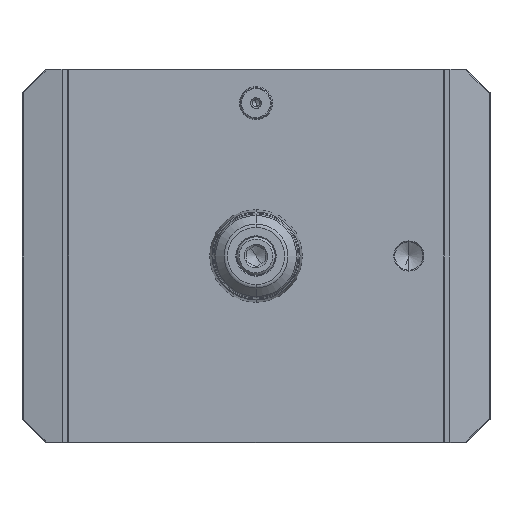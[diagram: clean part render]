
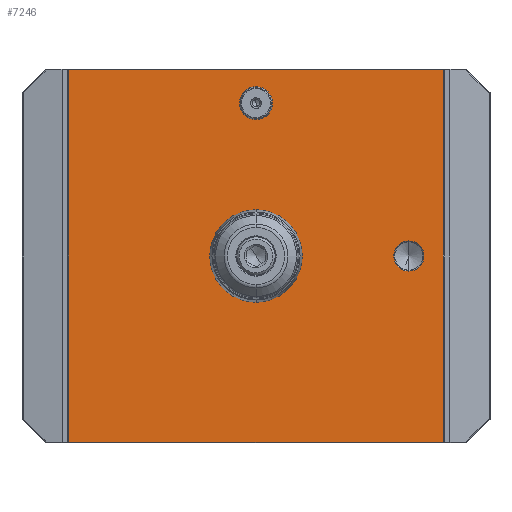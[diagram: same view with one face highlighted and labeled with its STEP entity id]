
A CAD part, front view. The second image highlights one B-rep face of the part: STEP entity #7246.
In plain terms, the highlighted planar face has unit normal (0, -1, 0).
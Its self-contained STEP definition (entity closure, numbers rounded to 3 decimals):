
#49 = DIRECTION ( 'NONE',  ( 0., 0., -1. ) ) ;
#73 = LINE ( 'NONE', #15176, #10486 ) ;
#140 = EDGE_CURVE ( 'NONE', #13386, #1347, #16116, .T. ) ;
#358 = DIRECTION ( 'NONE',  ( 0., 0., -1. ) ) ;
#517 = DIRECTION ( 'NONE',  ( 0., -1., 0. ) ) ;
#574 = ORIENTED_EDGE ( 'NONE', *, *, #17873, .T. ) ;
#775 = DIRECTION ( 'NONE',  ( -1., 0., 0. ) ) ;
#1282 = DIRECTION ( 'NONE',  ( 0., 1., 0. ) ) ;
#1347 = VERTEX_POINT ( 'NONE', #9343 ) ;
#1381 = EDGE_CURVE ( 'NONE', #7274, #12689, #6073, .T. ) ;
#1697 = ORIENTED_EDGE ( 'NONE', *, *, #13073, .F. ) ;
#2089 = CARTESIAN_POINT ( 'NONE',  ( 65., 0., 6.4 ) ) ;
#2247 = EDGE_CURVE ( 'NONE', #14125, #7274, #2492, .T. ) ;
#2334 = CARTESIAN_POINT ( 'NONE',  ( 79.6, 0., 79.5 ) ) ;
#2492 = LINE ( 'NONE', #5302, #7288 ) ;
#2565 = CIRCLE ( 'NONE', #13826, 6.4 ) ;
#2569 = ORIENTED_EDGE ( 'NONE', *, *, #1381, .T. ) ;
#2935 = ORIENTED_EDGE ( 'NONE', *, *, #15577, .F. ) ;
#2973 = FACE_OUTER_BOUND ( 'NONE', #7204, .T. ) ;
#3058 = AXIS2_PLACEMENT_3D ( 'NONE', #8189, #517, #8286 ) ;
#3395 = CIRCLE ( 'NONE', #3058, 12.9 ) ;
#3426 = CARTESIAN_POINT ( 'NONE',  ( 65., 0., -6.4 ) ) ;
#3657 = DIRECTION ( 'NONE',  ( 0., -1., 0. ) ) ;
#4084 = VERTEX_POINT ( 'NONE', #3426 ) ;
#4315 = CARTESIAN_POINT ( 'NONE',  ( 65., 0., 0. ) ) ;
#4455 = CARTESIAN_POINT ( 'NONE',  ( 0., 0., 58.6 ) ) ;
#4583 = CARTESIAN_POINT ( 'NONE',  ( -79.6, 0., 79.1 ) ) ;
#4651 = CARTESIAN_POINT ( 'NONE',  ( 79.6, 0., 79.1 ) ) ;
#4858 = ORIENTED_EDGE ( 'NONE', *, *, #16163, .F. ) ;
#4940 = AXIS2_PLACEMENT_3D ( 'NONE', #4315, #8964, #16615 ) ;
#5177 = CARTESIAN_POINT ( 'NONE',  ( 0., 0., 65. ) ) ;
#5302 = CARTESIAN_POINT ( 'NONE',  ( -79.6, 0., 79.1 ) ) ;
#6073 = LINE ( 'NONE', #10813, #9205 ) ;
#6545 = VECTOR ( 'NONE', #11306, 1000. ) ;
#6580 = EDGE_LOOP ( 'NONE', ( #19228, #1697 ) ) ;
#7204 = EDGE_LOOP ( 'NONE', ( #2935, #11988, #2569, #574 ) ) ;
#7246 = ADVANCED_FACE ( 'NONE', ( #12339, #15070, #11954, #2973 ), #15158, .F. ) ;
#7274 = VERTEX_POINT ( 'NONE', #4583 ) ;
#7288 = VECTOR ( 'NONE', #775, 1000. ) ;
#7522 = CARTESIAN_POINT ( 'NONE',  ( 0., 0., -12.9 ) ) ;
#8117 = AXIS2_PLACEMENT_3D ( 'NONE', #5177, #18782, #358 ) ;
#8189 = CARTESIAN_POINT ( 'NONE',  ( 0., 0., 0. ) ) ;
#8286 = DIRECTION ( 'NONE',  ( 0., 0., -1. ) ) ;
#8420 = AXIS2_PLACEMENT_3D ( 'NONE', #11029, #10831, #49 ) ;
#8964 = DIRECTION ( 'NONE',  ( 0., -1., 0. ) ) ;
#9205 = VECTOR ( 'NONE', #12407, 1000. ) ;
#9217 = ORIENTED_EDGE ( 'NONE', *, *, #9807, .F. ) ;
#9343 = CARTESIAN_POINT ( 'NONE',  ( 0., 0., 71.4 ) ) ;
#9807 = EDGE_CURVE ( 'NONE', #1347, #13386, #2565, .T. ) ;
#10454 = CARTESIAN_POINT ( 'NONE',  ( 65., 0., 0. ) ) ;
#10486 = VECTOR ( 'NONE', #16898, 1000. ) ;
#10551 = CARTESIAN_POINT ( 'NONE',  ( -79.6, 0., 79.5 ) ) ;
#10604 = ORIENTED_EDGE ( 'NONE', *, *, #140, .F. ) ;
#10813 = CARTESIAN_POINT ( 'NONE',  ( -79.6, 0., 79.5 ) ) ;
#10831 = DIRECTION ( 'NONE',  ( 0., -1., 0. ) ) ;
#10969 = EDGE_LOOP ( 'NONE', ( #18525, #4858 ) ) ;
#11029 = CARTESIAN_POINT ( 'NONE',  ( 0., 0., 0. ) ) ;
#11100 = VERTEX_POINT ( 'NONE', #2089 ) ;
#11306 = DIRECTION ( 'NONE',  ( 0., 0., -1. ) ) ;
#11954 = FACE_BOUND ( 'NONE', #6580, .T. ) ;
#11988 = ORIENTED_EDGE ( 'NONE', *, *, #2247, .T. ) ;
#12339 = FACE_BOUND ( 'NONE', #13494, .T. ) ;
#12359 = CARTESIAN_POINT ( 'NONE',  ( -79.6, 0., -79.1 ) ) ;
#12407 = DIRECTION ( 'NONE',  ( 0., 0., -1. ) ) ;
#12689 = VERTEX_POINT ( 'NONE', #12359 ) ;
#13073 = EDGE_CURVE ( 'NONE', #16837, #16252, #19678, .T. ) ;
#13244 = DIRECTION ( 'NONE',  ( 0., -1., 0. ) ) ;
#13386 = VERTEX_POINT ( 'NONE', #4455 ) ;
#13494 = EDGE_LOOP ( 'NONE', ( #10604, #9217 ) ) ;
#13826 = AXIS2_PLACEMENT_3D ( 'NONE', #19380, #3657, #14739 ) ;
#14125 = VERTEX_POINT ( 'NONE', #4651 ) ;
#14739 = DIRECTION ( 'NONE',  ( 0., 0., -1. ) ) ;
#14884 = CARTESIAN_POINT ( 'NONE',  ( 0., 0., 12.9 ) ) ;
#15070 = FACE_BOUND ( 'NONE', #10969, .T. ) ;
#15158 = PLANE ( 'NONE',  #15402 ) ;
#15176 = CARTESIAN_POINT ( 'NONE',  ( 79.6, 0., -79.1 ) ) ;
#15402 = AXIS2_PLACEMENT_3D ( 'NONE', #10551, #1282, #18482 ) ;
#15577 = EDGE_CURVE ( 'NONE', #14125, #16309, #16118, .T. ) ;
#15896 = EDGE_CURVE ( 'NONE', #4084, #11100, #17833, .T. ) ;
#16116 = CIRCLE ( 'NONE', #8117, 6.4 ) ;
#16118 = LINE ( 'NONE', #2334, #6545 ) ;
#16163 = EDGE_CURVE ( 'NONE', #11100, #4084, #16197, .T. ) ;
#16197 = CIRCLE ( 'NONE', #18166, 6.4 ) ;
#16252 = VERTEX_POINT ( 'NONE', #7522 ) ;
#16309 = VERTEX_POINT ( 'NONE', #18388 ) ;
#16615 = DIRECTION ( 'NONE',  ( 0., 0., -1. ) ) ;
#16837 = VERTEX_POINT ( 'NONE', #14884 ) ;
#16898 = DIRECTION ( 'NONE',  ( 1., 0., 0. ) ) ;
#17833 = CIRCLE ( 'NONE', #4940, 6.4 ) ;
#17873 = EDGE_CURVE ( 'NONE', #12689, #16309, #73, .T. ) ;
#18166 = AXIS2_PLACEMENT_3D ( 'NONE', #10454, #13244, #19404 ) ;
#18388 = CARTESIAN_POINT ( 'NONE',  ( 79.6, 0., -79.1 ) ) ;
#18482 = DIRECTION ( 'NONE',  ( -1., 0., 0. ) ) ;
#18525 = ORIENTED_EDGE ( 'NONE', *, *, #15896, .F. ) ;
#18782 = DIRECTION ( 'NONE',  ( 0., -1., 0. ) ) ;
#19127 = EDGE_CURVE ( 'NONE', #16252, #16837, #3395, .T. ) ;
#19228 = ORIENTED_EDGE ( 'NONE', *, *, #19127, .F. ) ;
#19380 = CARTESIAN_POINT ( 'NONE',  ( 0., 0., 65. ) ) ;
#19404 = DIRECTION ( 'NONE',  ( 0., 0., -1. ) ) ;
#19678 = CIRCLE ( 'NONE', #8420, 12.9 ) ;
